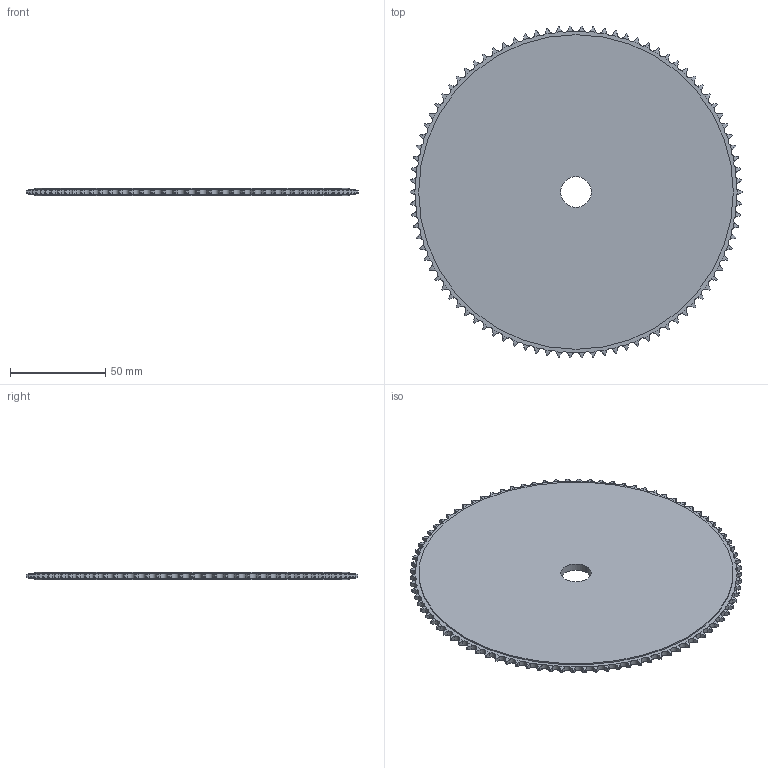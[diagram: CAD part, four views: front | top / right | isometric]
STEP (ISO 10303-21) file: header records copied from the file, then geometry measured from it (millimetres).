
FILE_DESCRIPTION((''),'2;1');
FILE_NAME('500-061-0090_PRT','2021-02-12T',('Brieden'),('Brieden'),'PRO/ENGINEER BY PARAMETRIC TECHNOLOGY CORPORATION, 2010160','PRO/ENGINEER BY PARAMETRIC TECHNOLOGY CORPORATION, 2010160','');
FILE_SCHEMA(('AUTOMOTIVE_DESIGN { 1 0 10303 214 1 1 1 1 }'));
Length unit declared in the file: millimetre
Products named in the file (1): 500-061-0090_PRT
Bounding box: 174.03 x 173.94 x 4 mm (x, y, z)
Volume: 88105 mm3; surface area: 47918.5 mm2
Topology: 1 solids, 1 shells, 550 faces, 1638 edges, 1092 vertices
Faces by surface type: cylinder 366, torus 180, plane 4
Entity records: 25784 total; most frequent: CARTESIAN_POINT 6905, ORIENTED_EDGE 3276, DIRECTION 2570, PRESENTATION_STYLE_ASSIGNMENT 1639, STYLED_ITEM 1639, CURVE_STYLE 1638, EDGE_CURVE 1638, AXIS2_PLACEMENT_3D 1102
